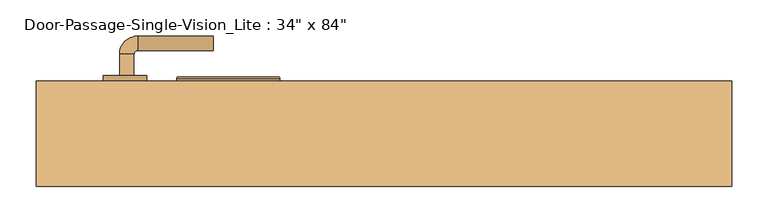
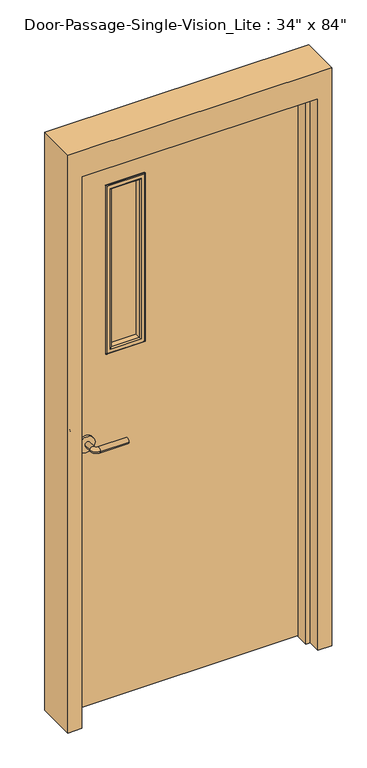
"""IFC4 building model written with IfcOpenShell, lengths in millimetres: door geometry."""

from ifc_helpers import new_model, si_unit, point, frame, frame_2d, origin, place, context, project, spatial, polyline, circle_curve, ellipse_curve, trimmed, segment, composite_curve, outline, extrude, faceted_brep, source, transform, mapped, element, save
from ifc_brep_helpers import plane_surface, cylinder_surface, revolved_surface, advanced_brep


def door_7b3be5e4(model_context):
    return source(origin(), model_context, "Body", "SolidModel", [
        advanced_brep(
        [(-366.790625, 30.1, 1016.0), (-346.790625, 30.1, 1016.0), (-346.790625, 0.1, 1016.0), (-366.790625, 0.1, 1016.0), (-341.790625, -4.9, 1016.0), (-341.790625, -24.9, 1016.0), (-236.790625, -24.9, 1016.0), (-236.790625, -4.9, 1016.0)],
        [
            (0, 1, circle_curve(frame((-356.790625, 30.1, 1016.0), z_axis=(0.0, 1.0, 0.0), x_axis=(1.0, 0.0, 0.0)), 10.0)),
            (1, 0, circle_curve(frame((-356.790625, 30.1, 1016.0), z_axis=(0.0, 1.0, 0.0), x_axis=(1.0, 0.0, 0.0)), 10.0)),
            (1, 2),
            (2, 3, circle_curve(frame((-356.790625, 0.1, 1016.0), z_axis=(0.0, 1.0, 0.0), x_axis=(1.0, 0.0, 0.0)), 10.0)),
            (3, 0),
            (3, 2, circle_curve(frame((-356.790625, 0.1, 1016.0), z_axis=(0.0, 1.0, 0.0), x_axis=(1.0, 0.0, 0.0)), 10.0)),
            (4, 5, circle_curve(frame((-341.790625, -14.9, 1016.0), z_axis=(-1.0, 0.0, 0.0), x_axis=(0.0, 1.0, 0.0)), 10.0)),
            (5, 3, circle_curve(frame((-341.790625, 0.1, 1016.0), z_axis=(0.0, 0.0, -1.0), x_axis=(-1.0, 0.0, 0.0)), 25.0)),
            (2, 4, circle_curve(frame((-341.790625, 0.1, 1016.0), z_axis=(0.0, 0.0, 1.0), x_axis=(-1.0, 0.0, 0.0)), 5.0)),
            (5, 4, circle_curve(frame((-341.790625, -14.9, 1016.0), z_axis=(-1.0, 0.0, 0.0), x_axis=(0.0, 1.0, 0.0)), 10.0)),
            (6, 7, circle_curve(frame((-236.790625, -14.9, 1016.0), z_axis=(1.0, 0.0, 0.0), x_axis=(0.0, 1.0, 0.0)), 10.0)),
            (7, 6, circle_curve(frame((-236.790625, -14.9, 1016.0), z_axis=(1.0, 0.0, 0.0), x_axis=(0.0, 1.0, 0.0)), 10.0)),
            (4, 7),
            (6, 5),
        ],
        [
            plane_surface(frame((-356.790625, 30.1, 1016.0), z_axis=(0.0, 1.0, 0.0), x_axis=(0.0, 0.0, 1.0))),
            cylinder_surface(frame((-356.790625, 30.1, 1016.0), z_axis=(0.0, 1.0, 0.0), x_axis=(1.0, 0.0, 0.0)), 10.0),
            revolved_surface(trimmed(ellipse_curve(frame((-356.790625, 0.1, 1016.0), z_axis=(0.0, -1.0, 0.0), x_axis=(1.0, 0.0, 0.0)), 10.0, 10.0), [point((-366.790625, 0.1, 1016.0))], [point((-346.790625, 0.1, 1016.0))], True, "CARTESIAN"), (-341.790625, 0.1, 1016.0), (0.0, 0.0, -1.0)),
            revolved_surface(trimmed(ellipse_curve(frame((-356.790625, 0.1, 1016.0), z_axis=(0.0, -1.0, 0.0), x_axis=(1.0, 0.0, 0.0)), 10.0, 10.0), [point((-346.790625, 0.1, 1016.0))], [point((-366.790625, 0.1, 1016.0))], True, "CARTESIAN"), (-341.790625, 0.1, 1016.0), (0.0, 0.0, -1.0)),
            plane_surface(frame((-236.790625, -14.9, 1016.0), z_axis=(1.0, 0.0, 0.0), x_axis=(0.0, 0.0, 1.0))),
            cylinder_surface(frame((-341.790625, -14.9, 1016.0), z_axis=(-1.0, 0.0, 0.0), x_axis=(0.0, 1.0, 0.0)), 10.0),
        ],
        [
            (0, [[1, 2]]),
            (1, [[3, 4, 5, -2]]),
            (1, [[-5, 6, -3, -1]]),
            (2, [[7, 8, -4, 9]]),
            (3, [[10, -9, -6, -8]]),
            (4, [[11, 12]]),
            (5, [[13, -11, 14, -7]]),
            (5, [[-14, -12, -13, -10]]),
        ],
    ),
        extrude(outline(composite_curve([segment(trimmed(circle_curve(frame_2d((1016.0, -359.290625)), 30.0), [point((1016.0, -389.290625))], [point((1016.0, -329.290625))], False, "CARTESIAN"), True, "CONTINUOUS"), segment(trimmed(circle_curve(frame_2d((1016.0, -359.290625)), 30.0), [point((1016.0, -329.290625))], [point((1016.0, -389.290625))], False, "CARTESIAN"), True, "CONTINUOUS")], self_intersect=False)), frame((0.0, 30.1, 0.0), z_axis=(0.0, 1.0, 0.0), x_axis=(0.0, 0.0, 1.0)), (0.0, 0.0, 1.0), 8.0),
        advanced_brep(
        [(-366.790625, 90.55, 1016.0), (-346.790625, 90.55, 1016.0), (-366.790625, 120.55, 1016.0), (-346.790625, 120.55, 1016.0), (-341.790625, 125.55, 1016.0), (-341.790625, 145.55, 1016.0), (-236.790625, 145.55, 1016.0), (-236.790625, 125.55, 1016.0)],
        [
            (0, 1, circle_curve(frame((-356.790625, 90.55, 1016.0), z_axis=(0.0, -1.0, 0.0), x_axis=(1.0, 0.0, 0.0)), 10.0)),
            (1, 0, circle_curve(frame((-356.790625, 90.55, 1016.0), z_axis=(0.0, -1.0, 0.0), x_axis=(1.0, 0.0, 0.0)), 10.0)),
            (0, 2),
            (2, 3, circle_curve(frame((-356.790625, 120.55, 1016.0), z_axis=(0.0, -1.0, 0.0), x_axis=(1.0, 0.0, 0.0)), 10.0)),
            (3, 1),
            (3, 2, circle_curve(frame((-356.790625, 120.55, 1016.0), z_axis=(0.0, -1.0, 0.0), x_axis=(1.0, 0.0, 0.0)), 10.0)),
            (4, 3, circle_curve(frame((-341.790625, 120.55, 1016.0), z_axis=(0.0, 0.0, 1.0), x_axis=(-1.0, 0.0, 0.0)), 5.0)),
            (2, 5, circle_curve(frame((-341.790625, 120.55, 1016.0), z_axis=(0.0, 0.0, -1.0), x_axis=(-1.0, 0.0, 0.0)), 25.0)),
            (5, 4, circle_curve(frame((-341.790625, 135.55, 1016.0), z_axis=(-1.0, 0.0, 0.0), x_axis=(0.0, -1.0, 0.0)), 10.0)),
            (4, 5, circle_curve(frame((-341.790625, 135.55, 1016.0), z_axis=(-1.0, 0.0, 0.0), x_axis=(0.0, -1.0, 0.0)), 10.0)),
            (6, 7, circle_curve(frame((-236.790625, 135.55, 1016.0), z_axis=(1.0, 0.0, 0.0), x_axis=(0.0, -1.0, 0.0)), 10.0)),
            (7, 6, circle_curve(frame((-236.790625, 135.55, 1016.0), z_axis=(1.0, 0.0, 0.0), x_axis=(0.0, -1.0, 0.0)), 10.0)),
            (5, 6),
            (7, 4),
        ],
        [
            plane_surface(frame((-356.790625, 90.55, 1016.0), z_axis=(0.0, -1.0, 0.0), x_axis=(0.0, 0.0, 1.0))),
            cylinder_surface(frame((-356.790625, 90.55, 1016.0), z_axis=(0.0, -1.0, 0.0), x_axis=(1.0, 0.0, 0.0)), 10.0),
            revolved_surface(trimmed(ellipse_curve(frame((-356.790625, 120.55, 1016.0), z_axis=(0.0, -1.0, 0.0), x_axis=(1.0, 0.0, 0.0)), 10.0, 10.0), [point((-366.790625, 120.55, 1016.0))], [point((-346.790625, 120.55, 1016.0))], True, "CARTESIAN"), (-341.790625, 120.55, 1016.0), (0.0, 0.0, -1.0)),
            revolved_surface(trimmed(ellipse_curve(frame((-356.790625, 120.55, 1016.0), z_axis=(0.0, -1.0, 0.0), x_axis=(1.0, 0.0, 0.0)), 10.0, 10.0), [point((-346.790625, 120.55, 1016.0))], [point((-366.790625, 120.55, 1016.0))], True, "CARTESIAN"), (-341.790625, 120.55, 1016.0), (0.0, 0.0, -1.0)),
            plane_surface(frame((-236.790625, 135.55, 1016.0), z_axis=(1.0, 0.0, 0.0), x_axis=(0.0, 0.0, 1.0))),
            cylinder_surface(frame((-341.790625, 135.55, 1016.0), z_axis=(-1.0, 0.0, 0.0), x_axis=(0.0, -1.0, 0.0)), 10.0),
        ],
        [
            (0, [[1, 2]]),
            (1, [[-1, 3, 4, 5]]),
            (1, [[-2, -5, 6, -3]]),
            (2, [[7, -4, 8, 9]]),
            (3, [[-8, -6, -7, 10]]),
            (4, [[11, 12]]),
            (5, [[-9, 13, -12, 14]]),
            (5, [[-10, -14, -11, -13]]),
        ],
    ),
        extrude(outline(composite_curve([segment(trimmed(circle_curve(frame_2d((1016.0, -359.290625)), 30.0), [point((1016.0, -389.290625))], [point((1016.0, -329.290625))], False, "CARTESIAN"), True, "CONTINUOUS"), segment(trimmed(circle_curve(frame_2d((1016.0, -359.290625)), 30.0), [point((1016.0, -329.290625))], [point((1016.0, -389.290625))], False, "CARTESIAN"), True, "CONTINUOUS")], self_intersect=False)), frame((0.0, 82.55, 0.0), z_axis=(0.0, 1.0, 0.0), x_axis=(0.0, 0.0, 1.0)), (0.0, 0.0, 1.0), 8.0),
        faceted_brep([(431.8, 33.3375, 0.0), (431.8, 82.55, 0.0), (482.6, 82.55, 0.0), (482.6, -63.5, 0.0), (431.8, -63.5, 0.0), (431.8, -14.2875, 0.0), (415.925, -14.2875, 0.0), (415.925, 33.3375, 0.0), (431.8, 33.3375, 2133.6), (431.8, 82.55, 2133.6), (-431.8, 82.55, 2133.6), (-431.8, 82.55, 0.0), (-482.6, 82.55, 0.0), (-482.6, 82.55, 2235.2), (482.6, 82.55, 2235.2), (482.6, -63.5, 2235.2), (-482.6, -63.5, 2235.2), (-482.6, -63.5, 0.0), (-431.8, -63.5, 0.0), (-431.8, -63.5, 2133.6), (431.8, -63.5, 2133.6), (431.8, -14.2875, 2133.6), (-431.8, -14.2875, 2133.6), (-431.8, -14.2875, 0.0), (-415.925, -14.2875, 0.0), (-415.925, -14.2875, 2117.725), (415.925, -14.2875, 2117.725), (415.925, 33.3375, 2117.725), (-415.925, 33.3375, 2117.725), (-415.925, 33.3375, 0.0), (-431.8, 33.3375, 0.0), (-431.8, 33.3375, 2133.6)], [[[0, 1, 2, 3, 4, 5, 6, 7]], [[1, 0, 8, 9]], [[2, 1, 9, 10, 11, 12, 13, 14]], [[3, 2, 14, 15]], [[4, 3, 15, 16, 17, 18, 19, 20]], [[5, 4, 20, 21]], [[6, 5, 21, 22, 23, 24, 25, 26]], [[7, 6, 26, 27]], [[0, 7, 27, 28, 29, 30, 31, 8]], [[9, 8, 31, 10]], [[20, 19, 22, 21]], [[26, 25, 28, 27]], [[12, 11, 30, 29, 24, 23, 18, 17]], [[11, 10, 31, 30]], [[13, 12, 17, 16]], [[19, 18, 23, 22]], [[25, 24, 29, 28]], [[15, 14, 13, 16]]]),
        extrude(outline(polyline([(2133.6, -431.8), (0.0, -431.8), (0.0, 431.8), (2133.6, 431.8), (2133.6, -431.8)]), holes=[polyline([(1981.2, -279.4), (1981.2, -152.4), (1346.2, -152.4), (1346.2, -279.4), (1981.2, -279.4)])]), frame((0.0, 38.1, 0.0), z_axis=(0.0, 1.0, 0.0), x_axis=(0.0, 0.0, 1.0)), (0.0, 0.0, 1.0), 44.45),
        extrude(outline(polyline([(-152.4, 57.15), (-279.4, 57.15), (-279.4, 63.5), (-152.4, 63.5), (-152.4, 57.15)])), frame((0.0, 0.0, 1346.2), z_axis=(0.0, 0.0, 1.0), x_axis=(1.0, 0.0, 0.0)), (0.0, 0.0, 1.0), 635.0),
        advanced_brep(
        [(-279.4, 57.15, 1346.2), (-279.4, 38.1, 1346.2), (-279.4, 38.1, 1981.2), (-279.4, 57.15, 1981.2), (-267.4, 37.1, 1358.2), (-267.4, 57.15, 1358.2), (-267.4, 57.15, 1969.2), (-267.4, 37.1, 1969.2), (-272.4, 32.1, 1353.2), (-272.4, 32.1, 1974.2), (-287.4, 34.1, 1338.2), (-285.4, 32.1, 1340.2), (-285.4, 32.1, 1987.2), (-287.4, 34.1, 1989.2), (-287.4, 38.1, 1338.2), (-287.4, 38.1, 1989.2), (-152.4, 38.1, 1981.2), (-152.4, 57.15, 1981.2), (-164.4, 57.15, 1969.2), (-164.4, 37.1, 1969.2), (-159.4, 32.1, 1974.2), (-146.4, 32.1, 1987.2), (-144.4, 34.1, 1989.2), (-144.4, 38.1, 1989.2), (-152.4, 38.1, 1346.2), (-152.4, 57.15, 1346.2), (-164.4, 57.15, 1358.2), (-164.4, 37.1, 1358.2), (-159.4, 32.1, 1353.2), (-146.4, 32.1, 1340.2), (-144.4, 34.1, 1338.2), (-144.4, 38.1, 1338.2)],
        [
            (0, 1),
            (1, 2),
            (2, 3),
            (3, 0),
            (4, 5),
            (5, 6),
            (6, 7),
            (7, 4),
            (8, 4, ellipse_curve(frame((-272.4, 37.1, 1353.2), z_axis=(-0.7071067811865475, 0.0, 0.7071067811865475), x_axis=(-0.7071067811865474, 0.0, -0.7071067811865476)), 7.0710678, 5.0)),
            (7, 9, ellipse_curve(frame((-272.4, 37.1, 1974.2), z_axis=(-0.7071067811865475, 0.0, -0.7071067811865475), x_axis=(0.7071067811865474, 0.0, -0.7071067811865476)), 7.0710678, 5.0)),
            (9, 8),
            (10, 11, ellipse_curve(frame((-285.4, 34.1, 1340.2), z_axis=(-0.7071067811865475, 0.0, 0.7071067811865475), x_axis=(-0.7071067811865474, 0.0, -0.7071067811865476)), 2.8284271, 2.0)),
            (11, 12),
            (12, 13, ellipse_curve(frame((-285.4, 34.1, 1987.2), z_axis=(-0.7071067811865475, 0.0, -0.7071067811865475), x_axis=(0.7071067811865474, 0.0, -0.7071067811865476)), 2.8284271, 2.0)),
            (13, 10),
            (14, 10),
            (13, 15),
            (15, 14),
            (2, 16),
            (16, 17),
            (17, 3),
            (6, 18),
            (18, 19),
            (19, 7),
            (19, 20, ellipse_curve(frame((-159.4, 37.1, 1974.2), z_axis=(-0.7071067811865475, 0.0, 0.7071067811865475), x_axis=(-0.7071067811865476, 0.0, -0.7071067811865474)), 7.0710678, 5.0)),
            (20, 9),
            (12, 21),
            (21, 22, ellipse_curve(frame((-146.4, 34.1, 1987.2), z_axis=(-0.7071067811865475, 0.0, 0.7071067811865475), x_axis=(-0.7071067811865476, 0.0, -0.7071067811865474)), 2.8284271, 2.0)),
            (22, 13),
            (22, 23),
            (23, 15),
            (16, 24),
            (24, 25),
            (25, 17),
            (18, 26),
            (26, 27),
            (27, 19),
            (27, 28, ellipse_curve(frame((-159.4, 37.1, 1353.2), z_axis=(0.7071067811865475, 0.0, 0.7071067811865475), x_axis=(-0.7071067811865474, 0.0, 0.7071067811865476)), 7.0710678, 5.0)),
            (28, 20),
            (21, 29),
            (29, 30, ellipse_curve(frame((-146.4, 34.1, 1340.2), z_axis=(0.7071067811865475, 0.0, 0.7071067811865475), x_axis=(-0.7071067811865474, 0.0, 0.7071067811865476)), 2.8284271, 2.0)),
            (30, 22),
            (30, 31),
            (31, 23),
            (31, 14),
            (1, 24),
            (0, 25),
            (5, 26),
            (4, 27),
            (8, 28),
            (11, 29),
            (10, 30),
        ],
        [
            plane_surface(frame((-279.4, 38.1, 1346.2), z_axis=(-1.0, 0.0, 0.0), x_axis=(0.0, 0.0, 1.0))),
            plane_surface(frame((-267.4, 57.15, 1358.2), z_axis=(1.0, 0.0, 0.0), x_axis=(0.0, 0.0, 1.0))),
            cylinder_surface(frame((-272.4, 37.1, 1346.2), z_axis=(0.0, 0.0, -1.0), x_axis=(-1.0, 0.0, 0.0)), 5.0),
            cylinder_surface(frame((-285.4, 34.1, 1346.2), z_axis=(0.0, 0.0, -1.0), x_axis=(-1.0, 0.0, 0.0)), 2.0),
            plane_surface(frame((-287.4, 34.1, 1338.2), z_axis=(-1.0, 0.0, 0.0), x_axis=(0.0, 0.0, 1.0))),
            plane_surface(frame((-279.4, 38.1, 1981.2), z_axis=(0.0, 0.0, 1.0), x_axis=(1.0, 0.0, 0.0))),
            plane_surface(frame((-267.4, 57.15, 1969.2), z_axis=(0.0, 0.0, -1.0), x_axis=(1.0, 0.0, 0.0))),
            cylinder_surface(frame((-279.4, 37.1, 1974.2), z_axis=(-1.0, 0.0, 0.0), x_axis=(0.0, 0.0, 1.0)), 5.0),
            cylinder_surface(frame((-279.4, 34.1, 1987.2), z_axis=(-1.0, 0.0, 0.0), x_axis=(0.0, 0.0, 1.0)), 2.0),
            plane_surface(frame((-287.4, 34.1, 1989.2), z_axis=(0.0, 0.0, 1.0), x_axis=(1.0, 0.0, 0.0))),
            plane_surface(frame((-152.4, 38.1, 1981.2), z_axis=(1.0, 0.0, 0.0), x_axis=(0.0, 0.0, -1.0))),
            plane_surface(frame((-164.4, 57.15, 1969.2), z_axis=(-1.0, 0.0, 0.0), x_axis=(0.0, 0.0, -1.0))),
            cylinder_surface(frame((-159.4, 37.1, 1981.2), z_axis=(0.0, 0.0, 1.0), x_axis=(1.0, 0.0, 0.0)), 5.0),
            cylinder_surface(frame((-146.4, 34.1, 1981.2), z_axis=(0.0, 0.0, 1.0), x_axis=(1.0, 0.0, 0.0)), 2.0),
            plane_surface(frame((-144.4, 34.1, 1989.2), z_axis=(1.0, 0.0, 0.0), x_axis=(0.0, 0.0, -1.0))),
            plane_surface(frame((-144.4, 38.1, 1338.2), z_axis=(0.0, 1.0, 0.0), x_axis=(-1.0, 0.0, 0.0))),
            plane_surface(frame((-152.4, 38.1, 1346.2), z_axis=(0.0, 0.0, -1.0), x_axis=(-1.0, 0.0, 0.0))),
            plane_surface(frame((-152.4, 57.15, 1346.2), z_axis=(0.0, 1.0, 0.0), x_axis=(-1.0, 0.0, 0.0))),
            plane_surface(frame((-164.4, 57.15, 1358.2), z_axis=(0.0, 0.0, 1.0), x_axis=(-1.0, 0.0, 0.0))),
            cylinder_surface(frame((-152.4, 37.1, 1353.2), z_axis=(1.0, 0.0, 0.0), x_axis=(0.0, 0.0, -1.0)), 5.0),
            plane_surface(frame((-159.4, 32.1, 1353.2), z_axis=(0.0, -1.0, 0.0), x_axis=(-1.0, 0.0, 0.0))),
            cylinder_surface(frame((-152.4, 34.1, 1340.2), z_axis=(1.0, 0.0, 0.0), x_axis=(0.0, 0.0, -1.0)), 2.0),
            plane_surface(frame((-144.4, 34.1, 1338.2), z_axis=(0.0, 0.0, -1.0), x_axis=(-1.0, 0.0, 0.0))),
        ],
        [
            (0, [[1, 2, 3, 4]]),
            (1, [[5, 6, 7, 8]]),
            (2, [[9, -8, 10, 11]]),
            (3, [[12, 13, 14, 15]]),
            (4, [[16, -15, 17, 18]]),
            (5, [[-3, 19, 20, 21]]),
            (6, [[-7, 22, 23, 24]]),
            (7, [[-10, -24, 25, 26]]),
            (8, [[-14, 27, 28, 29]]),
            (9, [[-17, -29, 30, 31]]),
            (10, [[-20, 32, 33, 34]]),
            (11, [[-23, 35, 36, 37]]),
            (12, [[-25, -37, 38, 39]]),
            (13, [[-28, 40, 41, 42]]),
            (14, [[-30, -42, 43, 44]]),
            (15, [[-31, -44, 45, -18], [46, -32, -19, -2]]),
            (16, [[-33, -46, -1, 47]]),
            (17, [[-21, -34, -47, -4], [48, -35, -22, -6]]),
            (18, [[-36, -48, -5, 49]]),
            (19, [[-38, -49, -9, 50]]),
            (20, [[51, -40, -27, -13], [-26, -39, -50, -11]]),
            (21, [[-41, -51, -12, 52]]),
            (22, [[-43, -52, -16, -45]]),
        ],
    ),
        advanced_brep(
        [(-279.4, 63.5, 1981.2), (-279.4, 82.55, 1981.2), (-279.4, 82.55, 1346.2), (-279.4, 63.5, 1346.2), (-267.4, 83.55, 1969.2), (-267.4, 63.5, 1969.2), (-267.4, 63.5, 1358.2), (-267.4, 83.55, 1358.2), (-272.4, 88.55, 1974.2), (-272.4, 88.55, 1353.2), (-287.4, 86.55, 1989.2), (-285.4, 88.55, 1987.2), (-285.4, 88.55, 1340.2), (-287.4, 86.55, 1338.2), (-287.4, 82.55, 1989.2), (-287.4, 82.55, 1338.2), (-152.4, 82.55, 1346.2), (-152.4, 63.5, 1346.2), (-164.4, 63.5, 1358.2), (-164.4, 83.55, 1358.2), (-159.4, 88.55, 1353.2), (-146.4, 88.55, 1340.2), (-144.4, 86.55, 1338.2), (-144.4, 82.55, 1338.2), (-152.4, 82.55, 1981.2), (-152.4, 63.5, 1981.2), (-164.4, 63.5, 1969.2), (-164.4, 83.55, 1969.2), (-159.4, 88.55, 1974.2), (-146.4, 88.55, 1987.2), (-144.4, 86.55, 1989.2), (-144.4, 82.55, 1989.2)],
        [
            (0, 1),
            (1, 2),
            (2, 3),
            (3, 0),
            (4, 5),
            (5, 6),
            (6, 7),
            (7, 4),
            (8, 4, ellipse_curve(frame((-272.4, 83.55, 1974.2), z_axis=(-0.7071067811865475, 0.0, -0.7071067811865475), x_axis=(-0.7071067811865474, 0.0, 0.7071067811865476)), 7.0710678, 5.0)),
            (7, 9, ellipse_curve(frame((-272.4, 83.55, 1353.2), z_axis=(-0.7071067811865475, 0.0, 0.7071067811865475), x_axis=(0.7071067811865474, 0.0, 0.7071067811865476)), 7.0710678, 5.0)),
            (9, 8),
            (10, 11, ellipse_curve(frame((-285.4, 86.55, 1987.2), z_axis=(-0.7071067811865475, 0.0, -0.7071067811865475), x_axis=(-0.7071067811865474, 0.0, 0.7071067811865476)), 2.8284271, 2.0)),
            (11, 12),
            (12, 13, ellipse_curve(frame((-285.4, 86.55, 1340.2), z_axis=(-0.7071067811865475, 0.0, 0.7071067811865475), x_axis=(0.7071067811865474, 0.0, 0.7071067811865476)), 2.8284271, 2.0)),
            (13, 10),
            (14, 10),
            (13, 15),
            (15, 14),
            (2, 16),
            (16, 17),
            (17, 3),
            (6, 18),
            (18, 19),
            (19, 7),
            (19, 20, ellipse_curve(frame((-159.4, 83.55, 1353.2), z_axis=(-0.7071067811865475, 0.0, -0.7071067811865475), x_axis=(-0.7071067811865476, 0.0, 0.7071067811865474)), 7.0710678, 5.0)),
            (20, 9),
            (12, 21),
            (21, 22, ellipse_curve(frame((-146.4, 86.55, 1340.2), z_axis=(-0.7071067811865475, 0.0, -0.7071067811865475), x_axis=(-0.7071067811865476, 0.0, 0.7071067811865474)), 2.8284271, 2.0)),
            (22, 13),
            (22, 23),
            (23, 15),
            (16, 24),
            (24, 25),
            (25, 17),
            (18, 26),
            (26, 27),
            (27, 19),
            (27, 28, ellipse_curve(frame((-159.4, 83.55, 1974.2), z_axis=(0.7071067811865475, 0.0, -0.7071067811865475), x_axis=(-0.7071067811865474, 0.0, -0.7071067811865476)), 7.0710678, 5.0)),
            (28, 20),
            (21, 29),
            (29, 30, ellipse_curve(frame((-146.4, 86.55, 1987.2), z_axis=(0.7071067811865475, 0.0, -0.7071067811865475), x_axis=(-0.7071067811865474, 0.0, -0.7071067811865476)), 2.8284271, 2.0)),
            (30, 22),
            (30, 31),
            (31, 23),
            (31, 14),
            (1, 24),
            (0, 25),
            (5, 26),
            (4, 27),
            (8, 28),
            (11, 29),
            (10, 30),
        ],
        [
            plane_surface(frame((-279.4, 82.55, 1981.2), z_axis=(-1.0, 0.0, 0.0), x_axis=(0.0, 0.0, -1.0))),
            plane_surface(frame((-267.4, 63.5, 1969.2), z_axis=(1.0, 0.0, 0.0), x_axis=(0.0, 0.0, -1.0))),
            cylinder_surface(frame((-272.4, 83.55, 1981.2), z_axis=(0.0, 0.0, 1.0), x_axis=(-1.0, 0.0, 0.0)), 5.0),
            cylinder_surface(frame((-285.4, 86.55, 1981.2), z_axis=(0.0, 0.0, 1.0), x_axis=(-1.0, 0.0, 0.0)), 2.0),
            plane_surface(frame((-287.4, 86.55, 1989.2), z_axis=(-1.0, 0.0, 0.0), x_axis=(0.0, 0.0, -1.0))),
            plane_surface(frame((-279.4, 82.55, 1346.2), z_axis=(0.0, 0.0, -1.0), x_axis=(1.0, 0.0, 0.0))),
            plane_surface(frame((-267.4, 63.5, 1358.2), z_axis=(0.0, 0.0, 1.0), x_axis=(1.0, 0.0, 0.0))),
            cylinder_surface(frame((-279.4, 83.55, 1353.2), z_axis=(-1.0, 0.0, 0.0), x_axis=(0.0, 0.0, -1.0)), 5.0),
            cylinder_surface(frame((-279.4, 86.55, 1340.2), z_axis=(-1.0, 0.0, 0.0), x_axis=(0.0, 0.0, -1.0)), 2.0),
            plane_surface(frame((-287.4, 86.55, 1338.2), z_axis=(0.0, 0.0, -1.0), x_axis=(1.0, 0.0, 0.0))),
            plane_surface(frame((-152.4, 82.55, 1346.2), z_axis=(1.0, 0.0, 0.0), x_axis=(0.0, 0.0, 1.0))),
            plane_surface(frame((-164.4, 63.5, 1358.2), z_axis=(-1.0, 0.0, 0.0), x_axis=(0.0, 0.0, 1.0))),
            cylinder_surface(frame((-159.4, 83.55, 1346.2), z_axis=(0.0, 0.0, -1.0), x_axis=(1.0, 0.0, 0.0)), 5.0),
            cylinder_surface(frame((-146.4, 86.55, 1346.2), z_axis=(0.0, 0.0, -1.0), x_axis=(1.0, 0.0, 0.0)), 2.0),
            plane_surface(frame((-144.4, 86.55, 1338.2), z_axis=(1.0, 0.0, 0.0), x_axis=(0.0, 0.0, 1.0))),
            plane_surface(frame((-144.4, 82.55, 1989.2), z_axis=(0.0, -1.0, 0.0), x_axis=(-1.0, 0.0, 0.0))),
            plane_surface(frame((-152.4, 82.55, 1981.2), z_axis=(0.0, 0.0, 1.0), x_axis=(-1.0, 0.0, 0.0))),
            plane_surface(frame((-152.4, 63.5, 1981.2), z_axis=(0.0, -1.0, 0.0), x_axis=(-1.0, 0.0, 0.0))),
            plane_surface(frame((-164.4, 63.5, 1969.2), z_axis=(0.0, 0.0, -1.0), x_axis=(-1.0, 0.0, 0.0))),
            cylinder_surface(frame((-152.4, 83.55, 1974.2), z_axis=(1.0, 0.0, 0.0), x_axis=(0.0, 0.0, 1.0)), 5.0),
            plane_surface(frame((-159.4, 88.55, 1974.2), z_axis=(0.0, 1.0, 0.0), x_axis=(-1.0, 0.0, 0.0))),
            cylinder_surface(frame((-152.4, 86.55, 1987.2), z_axis=(1.0, 0.0, 0.0), x_axis=(0.0, 0.0, 1.0)), 2.0),
            plane_surface(frame((-144.4, 86.55, 1989.2), z_axis=(0.0, 0.0, 1.0), x_axis=(-1.0, 0.0, 0.0))),
        ],
        [
            (0, [[1, 2, 3, 4]]),
            (1, [[5, 6, 7, 8]]),
            (2, [[9, -8, 10, 11]]),
            (3, [[12, 13, 14, 15]]),
            (4, [[16, -15, 17, 18]]),
            (5, [[-3, 19, 20, 21]]),
            (6, [[-7, 22, 23, 24]]),
            (7, [[-10, -24, 25, 26]]),
            (8, [[-14, 27, 28, 29]]),
            (9, [[-17, -29, 30, 31]]),
            (10, [[-20, 32, 33, 34]]),
            (11, [[-23, 35, 36, 37]]),
            (12, [[-25, -37, 38, 39]]),
            (13, [[-28, 40, 41, 42]]),
            (14, [[-30, -42, 43, 44]]),
            (15, [[-31, -44, 45, -18], [46, -32, -19, -2]]),
            (16, [[-33, -46, -1, 47]]),
            (17, [[-21, -34, -47, -4], [48, -35, -22, -6]]),
            (18, [[-36, -48, -5, 49]]),
            (19, [[-38, -49, -9, 50]]),
            (20, [[51, -40, -27, -13], [-26, -39, -50, -11]]),
            (21, [[-41, -51, -12, 52]]),
            (22, [[-43, -52, -16, -45]]),
        ],
    ),
    ])


if __name__ == "__main__":
    model = new_model("IFC4")
    model_context = context("Model", 3, world=origin())
    ifc_project = project(units=[si_unit("LENGTHUNIT", "METRE", prefix="MILLI")], contexts=[model_context])
    site = spatial("IfcSite", under=ifc_project)
    building = spatial("IfcBuilding", under=site)
    placement = place(None, origin())
    door_shape = door_7b3be5e4(model_context)
    element("IfcDoor", 1, ObjectType="Door-Passage-Single-Vision_Lite : 34\" x 84\"", at=placement, inside=building, context=model_context, shape_type="MappedRepresentation", body=[
        mapped(door_shape, transform((0.0, 0.0, 0.0), x_axis=(1.0, 0.0, 0.0), y_axis=(0.0, 1.0, 0.0), z_axis=(0.0, 0.0, 1.0))),
    ])
    save(model, "model.ifc")
